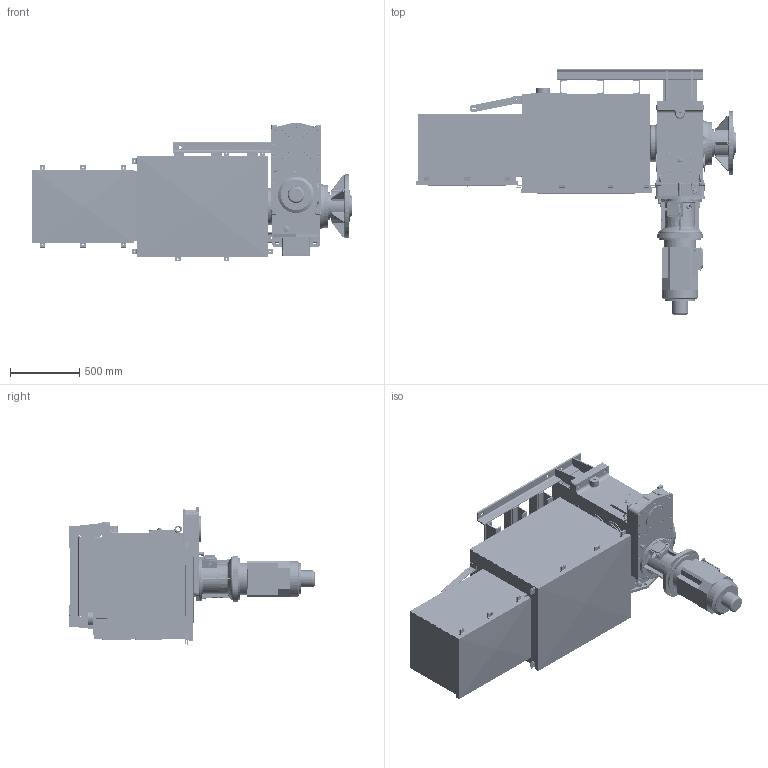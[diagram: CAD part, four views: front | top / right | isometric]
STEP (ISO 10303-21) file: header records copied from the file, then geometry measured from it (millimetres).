
FILE_DESCRIPTION(/* description */ (''),/* implementation_level */ '2;1');
FILE_NAME(/* name */ 'K:\NEMANJA\CABLE REEL\CABLE REEL DA\0700-6\07006005 DA-CRVD\STEP\75979.stp',/* time_stamp */ '2017-03-16T14:49:11+01:00',/* author */ ('zeldjo01'),/* organization */ ('Hillmar Industries Ltd.'),/* preprocessor_version */ 'ST-DEVELOPER v16.1',/* originating_system */ 'Autodesk Inventor 2016',/* authorisation */ '');
FILE_SCHEMA (('AUTOMOTIVE_DESIGN { 1 0 10303 214 3 1 1 }'));
Products named in the file (1): 75979
Bounding box: 2299.67 x 1764.09 x 999.12 mm (x, y, z)
Volume: 123925498 mm3; surface area: 22069570.7 mm2
Topology: 20 solids, 20 shells, 4820 faces, 12818 edges, 8250 vertices
Faces by surface type: plane 2119, cylinder 1552, bspline 591, cone 319, torus 212, sphere 27
Full cylindrical faces by diameter (mm): 7 x4, 8 x2, 8.376 x24, 8.731 x1, 10 x25, 10.106 x91, 11 x42, 12 x10, 12.5 x6, 13 x43, 13.5 x12, 14 x28, 15 x4, 16 x2, 18 x2, 18.256 x3, 18.38 x4, 20 x28, 20.5 x4, 21.336 x1, 22 x20, 22.225 x1, 22.3 x4, 23.812 x2, 24.917 x1, 24.918 x1, 25 x8, 27 x4, 28 x2, 28.575 x1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
Entity records: 165252 total; most frequent: CARTESIAN_POINT 47582, ORIENTED_EDGE 23378, DIRECTION 22140, EDGE_CURVE 11667, AXIS2_PLACEMENT_3D 8051, VERTEX_POINT 7850, EDGE_LOOP 6184, LINE 6038
